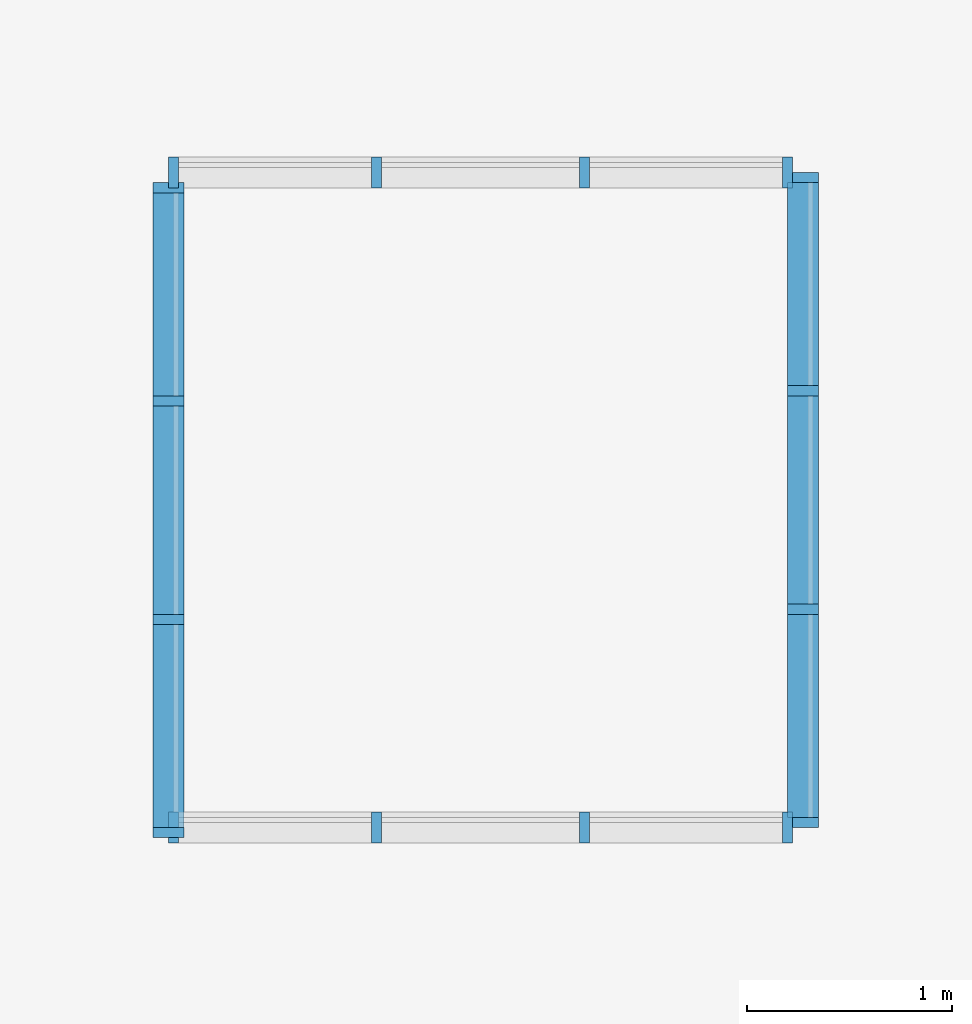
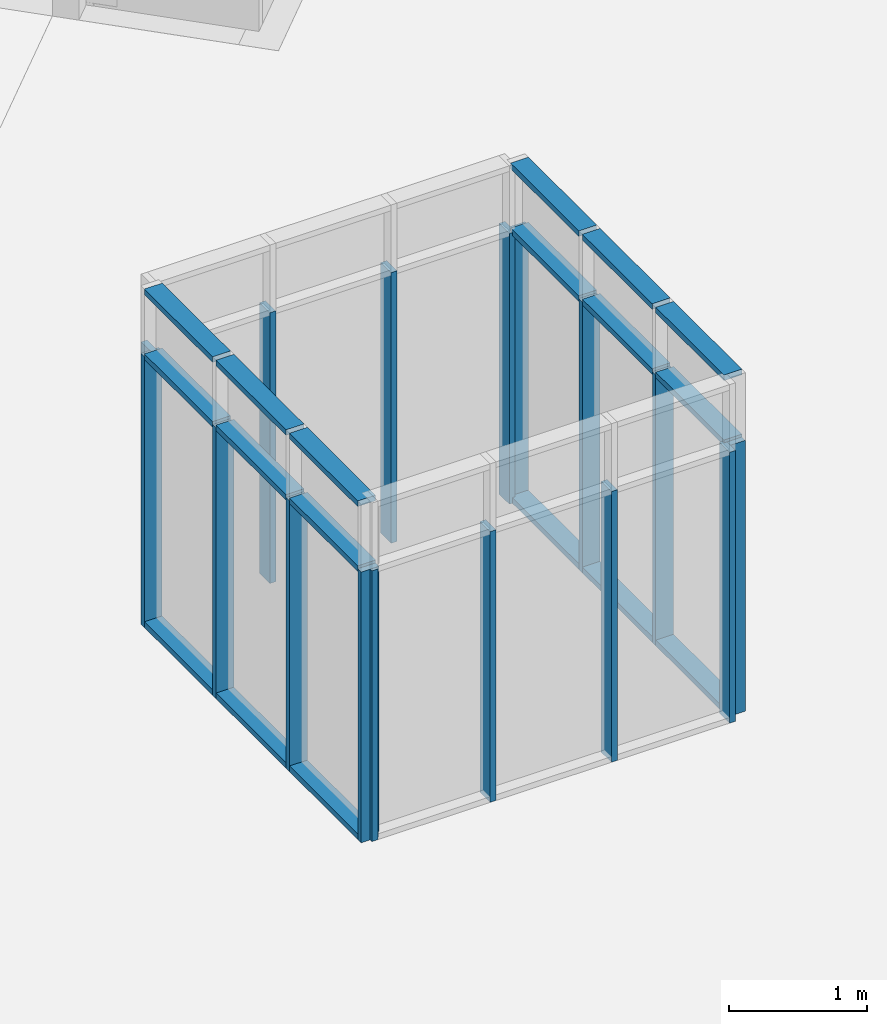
# One storey, part 6 of 64: 34 members, 4 elements without a shape of their own.
"""IFC2X3 building model written with IfcOpenShell, lengths in millimetres."""

from ifc_helpers import new_model, entity, si_unit, converted_unit, derived_unit, direction, frame, frame_2d, origin, origin_2d_with_axis, place, context, subcontext, project, spatial, rectangle, extrude, material, type_object, element, aggregate, save


model = new_model("IFC2X3")

# Units and contexts
model_context = context("Model", 3, precision=0.01, world=origin(), true_north=direction((4.05803320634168e-15, -1.0)))
body_context = subcontext(model_context, "Body", "Model", "MODEL_VIEW")
ifc_project = project(units=[si_unit("LENGTHUNIT", "METRE", prefix="MILLI"), si_unit("AREAUNIT", "SQUARE_METRE"), si_unit("VOLUMEUNIT", "CUBIC_METRE"), converted_unit("PLANEANGLEUNIT", "DEGREE", entity("IfcRatioMeasure", 0.0174532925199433), si_unit("PLANEANGLEUNIT", "RADIAN"), dimensions=[0, 0, 0, 0, 0, 0, 0]), si_unit("MASSUNIT", "GRAM", prefix="KILO"), derived_unit("MASSDENSITYUNIT", [(si_unit("MASSUNIT", "GRAM", prefix="KILO"), 1), (si_unit("LENGTHUNIT", "METRE"), -3)]), si_unit("TIMEUNIT", "SECOND"), si_unit("FREQUENCYUNIT", "HERTZ"), si_unit("THERMODYNAMICTEMPERATUREUNIT", "DEGREE_CELSIUS"), derived_unit("THERMALTRANSMITTANCEUNIT", [(si_unit("MASSUNIT", "GRAM", prefix="KILO"), 1), (si_unit("THERMODYNAMICTEMPERATUREUNIT", "KELVIN"), -1), (si_unit("TIMEUNIT", "SECOND"), -3)]), derived_unit("VOLUMETRICFLOWRATEUNIT", [(si_unit("LENGTHUNIT", "METRE"), 3), (si_unit("TIMEUNIT", "SECOND"), -1)]), si_unit("ELECTRICCURRENTUNIT", "AMPERE"), si_unit("ELECTRICVOLTAGEUNIT", "VOLT"), si_unit("POWERUNIT", "WATT"), si_unit("FORCEUNIT", "NEWTON", prefix="KILO"), si_unit("ILLUMINANCEUNIT", "LUX"), si_unit("LUMINOUSFLUXUNIT", "LUMEN"), si_unit("LUMINOUSINTENSITYUNIT", "CANDELA"), derived_unit("USERDEFINED", [(si_unit("MASSUNIT", "GRAM", prefix="KILO"), -1), (si_unit("LENGTHUNIT", "METRE"), -2), (si_unit("TIMEUNIT", "SECOND"), 3), (si_unit("LUMINOUSFLUXUNIT", "LUMEN"), 1)]), derived_unit("LINEARVELOCITYUNIT", [(si_unit("LENGTHUNIT", "METRE"), 1), (si_unit("TIMEUNIT", "SECOND"), -1)]), si_unit("PRESSUREUNIT", "PASCAL"), derived_unit("USERDEFINED", [(si_unit("LENGTHUNIT", "METRE"), -2), (si_unit("MASSUNIT", "GRAM", prefix="KILO"), 1), (si_unit("TIMEUNIT", "SECOND"), -2)])], contexts=[model_context])

# Site, building, storey
site_placement = place(None, frame((927466.849349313, 583801.882853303, 0.0), z_axis=(0.0, 0.0, 1.0), x_axis=(-1.0, 0.0, 0.0)))
site = spatial("IfcSite", under=ifc_project, at=site_placement, Name="Surface", CompositionType="ELEMENT")
building_placement = place(site_placement, origin())
building = spatial("IfcBuilding", under=site, at=building_placement, CompositionType="ELEMENT")
storey_placement = place(building_placement, frame((0.0, 0.0, 44170.0)))
storey = spatial("IfcBuildingStorey", under=building, at=storey_placement, Name="Ground FFL", CompositionType="ELEMENT", Elevation=44170.0)

# Curtain wall, members
curtain_wall_type = type_object("IfcCurtainWallType", Name="Curtain Wall:Storefront", PredefinedType="NOTDEFINED")
curtain_wall_1_placement = place(storey_placement, frame((0.0, 0.0, -44170.0)))
curtain_wall_1 = element("IfcCurtainWall", 1, at=curtain_wall_1_placement, inside=storey, type_object=curtain_wall_type, Name="Curtain Wall:Storefront", ObjectType="Curtain Wall:Storefront")
ifc_material = material(Name="Aluminium")
member_1_placement = place(curtain_wall_1_placement, frame((0.0, 0.0, 44170.0)))
member_1 = element("IfcMember", 2, at=member_1_placement, material=ifc_material, Name="Curtain Wall:Storefront:8486", ObjectType="Curtain Wall:Storefront:8486", context=body_context, shape_type="SweptSolid", body=[
    extrude(rectangle(XDim=49.9999999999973, YDim=150.000000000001, at=frame_2d((4.33253433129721e-12, 0.0), x_axis=(1.0, 0.0))), frame((-91700.5917798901, -24471.7403210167, 2976.14574404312), z_axis=(0.0, 1.0, 0.0), x_axis=(0.0, 0.0, -1.0)), (0.0, 0.0, 1.0), 991.666666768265),
])
member_2_placement = place(curtain_wall_1_placement, frame((0.0, 0.0, 44170.0)))
member_2 = element("IfcMember", 3, at=member_2_placement, material=ifc_material, Name="Curtain Wall:Storefront:8486", ObjectType="Curtain Wall:Storefront:8486", context=body_context, shape_type="SweptSolid", body=[
    extrude(rectangle(XDim=49.9999999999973, YDim=150.000000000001, at=frame_2d((4.33253433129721e-12, 0.0), x_axis=(1.0, 0.0))), frame((-91700.5917798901, -21371.7403210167, 25.0), z_axis=(0.0, -1.0, 0.0), x_axis=(0.0, 0.0, -1.0)), (0.0, 0.0, 1.0), 991.666666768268),
])
member_3_placement = place(curtain_wall_1_placement, frame((0.0, 0.0, 44170.0)))
member_3 = element("IfcMember", 4, at=member_3_placement, material=ifc_material, Name="Curtain Wall:Storefront:8486", ObjectType="Curtain Wall:Storefront:8486", context=body_context, shape_type="SweptSolid", body=[
    extrude(rectangle(XDim=150.000000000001, YDim=50.0000000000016, at=frame_2d((0.0, 2.16715534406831e-12), x_axis=(1.0, 0.0))), frame((-91700.5917798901, -24496.7403210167, 0.0), z_axis=(0.0, 0.0, 1.0), x_axis=(-1.0, 0.0, 0.0)), (0.0, 0.0, 1.0), 2400.0),
])
member_4_placement = place(curtain_wall_1_placement, frame((0.0, 0.0, 44170.0)))
member_4 = element("IfcMember", 5, at=member_4_placement, material=ifc_material, Name="Curtain Wall:Storefront:8486", ObjectType="Curtain Wall:Storefront:8486", context=body_context, shape_type="SweptSolid", body=[
    extrude(rectangle(XDim=49.9999999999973, YDim=150.000000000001, at=frame_2d((4.33253433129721e-12, 0.0), x_axis=(1.0, 0.0))), frame((-91700.5917798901, -22363.406987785, 2976.14574404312), z_axis=(0.0, 1.0, 0.0), x_axis=(0.0, 0.0, -1.0)), (0.0, 0.0, 1.0), 991.666666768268),
])
member_5_placement = place(curtain_wall_1_placement, frame((0.0, 0.0, 44170.0)))
member_5 = element("IfcMember", 6, at=member_5_placement, material=ifc_material, Name="Curtain Wall:Storefront:8486", ObjectType="Curtain Wall:Storefront:8486", context=body_context, shape_type="SweptSolid", body=[
    extrude(rectangle(XDim=49.9999999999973, YDim=150.000000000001, at=frame_2d((4.33253433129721e-12, 0.0), x_axis=(1.0, 0.0))), frame((-91700.5917798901, -23430.0736542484, 2976.14574404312), z_axis=(0.0, 1.0, 0.0), x_axis=(0.0, 0.0, -1.0)), (0.0, 0.0, 1.0), 1016.66666646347),
])
member_6_placement = place(curtain_wall_1_placement, frame((0.0, 0.0, 44170.0)))
member_6 = element("IfcMember", 7, at=member_6_placement, material=ifc_material, Name="Curtain Wall:Storefront:8486", ObjectType="Curtain Wall:Storefront:8486", context=body_context, shape_type="SweptSolid", body=[
    extrude(rectangle(XDim=49.9999999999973, YDim=150.000000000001, at=frame_2d((4.33253433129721e-12, 0.0), x_axis=(1.0, 0.0))), frame((-91700.5917798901, -22413.4069877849, 25.0), z_axis=(0.0, -1.0, 0.0), x_axis=(0.0, 0.0, -1.0)), (0.0, 0.0, 1.0), 1016.66666646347),
])
member_7_placement = place(curtain_wall_1_placement, frame((0.0, 0.0, 44170.0)))
member_7 = element("IfcMember", 8, at=member_7_placement, material=ifc_material, Name="Curtain Wall:Storefront:8486", ObjectType="Curtain Wall:Storefront:8486", context=body_context, shape_type="SweptSolid", body=[
    extrude(rectangle(XDim=49.9999999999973, YDim=150.000000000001, at=frame_2d((4.33253433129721e-12, 0.0), x_axis=(1.0, 0.0))), frame((-91700.5917798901, -23480.0736542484, 25.0), z_axis=(0.0, -1.0, 0.0), x_axis=(0.0, 0.0, -1.0)), (0.0, 0.0, 1.0), 991.666666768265),
])
member_8_placement = place(curtain_wall_1_placement, frame((0.0, 0.0, 44170.0)))
member_8 = element("IfcMember", 9, at=member_8_placement, material=ifc_material, Name="Curtain Wall:Storefront:8486", ObjectType="Curtain Wall:Storefront:8486", context=body_context, shape_type="SweptSolid", body=[
    extrude(rectangle(XDim=150.000000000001, YDim=50.0000000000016, at=frame_2d((0.0, 2.16715534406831e-12), x_axis=(1.0, 0.0))), frame((-91700.5917798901, -21346.7403210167, 2400.0), z_axis=(0.0, 0.0, -1.0), x_axis=(-1.0, 0.0, 0.0)), (0.0, 0.0, 1.0), 2400.0),
])
member_9_placement = place(curtain_wall_1_placement, frame((0.0, 0.0, 44170.0)))
member_9 = element("IfcMember", 10, at=member_9_placement, material=ifc_material, Name="Curtain Wall:Storefront:8486", ObjectType="Curtain Wall:Storefront:8486", context=body_context, shape_type="SweptSolid", body=[
    extrude(rectangle(XDim=50.000000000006, YDim=150.000000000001, at=origin_2d_with_axis()), frame((-91700.5917798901, -22363.406987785, 2400.0), z_axis=(0.0, 1.0, 0.0), x_axis=(0.0, 0.0, -1.0)), (0.0, 0.0, 1.0), 991.666666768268),
])
member_10_placement = place(curtain_wall_1_placement, frame((0.0, 0.0, 44170.0)))
member_10 = element("IfcMember", 11, at=member_10_placement, material=ifc_material, Name="Curtain Wall:Storefront:8486", ObjectType="Curtain Wall:Storefront:8486", context=body_context, shape_type="SweptSolid", body=[
    extrude(rectangle(XDim=50.000000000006, YDim=150.000000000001, at=origin_2d_with_axis()), frame((-91700.5917798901, -23430.0736542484, 2400.0), z_axis=(0.0, 1.0, 0.0), x_axis=(0.0, 0.0, -1.0)), (0.0, 0.0, 1.0), 1016.66666646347),
])
member_11_placement = place(curtain_wall_1_placement, frame((0.0, 0.0, 44170.0)))
member_11 = element("IfcMember", 12, at=member_11_placement, material=ifc_material, Name="Curtain Wall:Storefront:8486", ObjectType="Curtain Wall:Storefront:8486", context=body_context, shape_type="SweptSolid", body=[
    extrude(rectangle(XDim=50.000000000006, YDim=150.000000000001, at=origin_2d_with_axis()), frame((-91700.5917798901, -24471.7403210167, 2400.0), z_axis=(0.0, 1.0, 0.0), x_axis=(0.0, 0.0, -1.0)), (0.0, 0.0, 1.0), 991.666666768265),
])
member_12_placement = place(curtain_wall_1_placement, frame((0.0, 0.0, 44170.0)))
member_12 = element("IfcMember", 13, at=member_12_placement, material=ifc_material, Name="Curtain Wall:Storefront:8486", ObjectType="Curtain Wall:Storefront:8486", context=body_context, shape_type="SweptSolid", body=[
    extrude(rectangle(XDim=150.000000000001, YDim=49.9999999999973, at=origin_2d_with_axis()), frame((-91700.5917798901, -22388.4069877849, 0.0), z_axis=(0.0, 0.0, 1.0), x_axis=(-1.0, 0.0, 0.0)), (0.0, 0.0, 1.0), 2400.0),
])
member_13_placement = place(curtain_wall_1_placement, frame((0.0, 0.0, 44170.0)))
member_13 = element("IfcMember", 14, at=member_13_placement, material=ifc_material, Name="Curtain Wall:Storefront:8486", ObjectType="Curtain Wall:Storefront:8486", context=body_context, shape_type="SweptSolid", body=[
    extrude(rectangle(XDim=150.000000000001, YDim=49.9999999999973, at=origin_2d_with_axis()), frame((-91700.5917798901, -23455.0736542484, 0.0), z_axis=(0.0, 0.0, 1.0), x_axis=(-1.0, 0.0, 0.0)), (0.0, 0.0, 1.0), 2400.0),
])
aggregate(curtain_wall_1, [member_1, member_2, member_3, member_4, member_5, member_6, member_7, member_8, member_9, member_10, member_11, member_12, member_13])

curtain_wall_2_placement = place(storey_placement, frame((0.0, 0.0, -44170.0)))
curtain_wall_2 = element("IfcCurtainWall", 15, at=curtain_wall_2_placement, inside=storey, type_object=curtain_wall_type, Name="Curtain Wall:Storefront", ObjectType="Curtain Wall:Storefront")
member_14_placement = place(curtain_wall_2_placement, frame((0.0, 0.0, 44170.0)))
member_14 = element("IfcMember", 16, at=member_14_placement, material=ifc_material, Name="Curtain Wall:Storefront:8486", ObjectType="Curtain Wall:Storefront:8486", context=body_context, shape_type="SweptSolid", body=[
    extrude(rectangle(XDim=50.000000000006, YDim=150.000000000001, at=frame_2d((-8.66329230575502e-12, 0.0), x_axis=(1.0, 0.0))), frame((-91625.5917798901, -21321.7403210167, 0.0), z_axis=(0.0, 0.0, 1.0), x_axis=(-1.0, 0.0, 0.0)), (0.0, 0.0, 1.0), 2400.0),
])
member_15_placement = place(curtain_wall_2_placement, frame((0.0, 0.0, 44170.0)))
member_15 = element("IfcMember", 17, at=member_15_placement, material=ifc_material, Name="Curtain Wall:Storefront:8486", ObjectType="Curtain Wall:Storefront:8486", context=body_context, shape_type="SweptSolid", body=[
    extrude(rectangle(XDim=50.000000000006, YDim=150.000000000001, at=frame_2d((-8.66329230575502e-12, 0.0), x_axis=(1.0, 0.0))), frame((-88625.5917798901, -21321.7403210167, 2400.0), z_axis=(0.0, 0.0, -1.0), x_axis=(-1.0, 0.0, 0.0)), (0.0, 0.0, 1.0), 2400.0),
])
member_16_placement = place(curtain_wall_2_placement, frame((0.0, 0.0, 44170.0)))
member_16 = element("IfcMember", 18, at=member_16_placement, material=ifc_material, Name="Curtain Wall:Storefront:8486", ObjectType="Curtain Wall:Storefront:8486", context=body_context, shape_type="SweptSolid", body=[
    extrude(rectangle(XDim=49.9999999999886, YDim=150.000000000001, at=origin_2d_with_axis()), frame((-89617.2584466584, -21321.7403210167, 0.0), z_axis=(0.0, 0.0, 1.0), x_axis=(-1.0, 0.0, 0.0)), (0.0, 0.0, 1.0), 2400.0),
])
member_17_placement = place(curtain_wall_2_placement, frame((0.0, 0.0, 44170.0)))
member_17 = element("IfcMember", 19, at=member_17_placement, material=ifc_material, Name="Curtain Wall:Storefront:8486", ObjectType="Curtain Wall:Storefront:8486", context=body_context, shape_type="SweptSolid", body=[
    extrude(rectangle(XDim=49.9999999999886, YDim=150.000000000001, at=frame_2d((1.732658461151e-11, 0.0), x_axis=(1.0, 0.0))), frame((-90633.9251131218, -21321.7403210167, 0.0), z_axis=(0.0, 0.0, 1.0), x_axis=(-1.0, 0.0, 0.0)), (0.0, 0.0, 1.0), 2400.0),
])
aggregate(curtain_wall_2, [member_14, member_15, member_16, member_17])

curtain_wall_3_placement = place(storey_placement, frame((0.0, 0.0, -44170.0)))
curtain_wall_3 = element("IfcCurtainWall", 20, at=curtain_wall_3_placement, inside=storey, type_object=curtain_wall_type, Name="Curtain Wall:Storefront", ObjectType="Curtain Wall:Storefront")
member_18_placement = place(curtain_wall_3_placement, frame((0.0, 0.0, 44170.0)))
member_18 = element("IfcMember", 21, at=member_18_placement, material=ifc_material, Name="Curtain Wall:Storefront:8486", ObjectType="Curtain Wall:Storefront:8486", context=body_context, shape_type="SweptSolid", body=[
    extrude(rectangle(XDim=50.000000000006, YDim=150.000000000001, at=frame_2d((8.66329230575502e-12, 0.0), x_axis=(1.0, 0.0))), frame((-91625.5917798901, -24521.7403210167, 0.0), z_axis=(0.0, 0.0, 1.0), x_axis=(-1.0, 0.0, 0.0)), (0.0, 0.0, 1.0), 2400.0),
])
member_19_placement = place(curtain_wall_3_placement, frame((0.0, 0.0, 44170.0)))
member_19 = element("IfcMember", 22, at=member_19_placement, material=ifc_material, Name="Curtain Wall:Storefront:8486", ObjectType="Curtain Wall:Storefront:8486", context=body_context, shape_type="SweptSolid", body=[
    extrude(rectangle(XDim=50.000000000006, YDim=150.000000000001, at=frame_2d((8.66329230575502e-12, 0.0), x_axis=(1.0, 0.0))), frame((-88625.5917798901, -24521.7403210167, 2400.0), z_axis=(0.0, 0.0, -1.0), x_axis=(-1.0, 0.0, 0.0)), (0.0, 0.0, 1.0), 2400.0),
])
member_20_placement = place(curtain_wall_3_placement, frame((0.0, 0.0, 44170.0)))
member_20 = element("IfcMember", 23, at=member_20_placement, material=ifc_material, Name="Curtain Wall:Storefront:8486", ObjectType="Curtain Wall:Storefront:8486", context=body_context, shape_type="SweptSolid", body=[
    extrude(rectangle(XDim=49.9999999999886, YDim=150.000000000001, at=origin_2d_with_axis()), frame((-89617.2584466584, -24521.7403210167, 0.0), z_axis=(0.0, 0.0, 1.0), x_axis=(-1.0, 0.0, 0.0)), (0.0, 0.0, 1.0), 2400.0),
])
member_21_placement = place(curtain_wall_3_placement, frame((0.0, 0.0, 44170.0)))
member_21 = element("IfcMember", 24, at=member_21_placement, material=ifc_material, Name="Curtain Wall:Storefront:8486", ObjectType="Curtain Wall:Storefront:8486", context=body_context, shape_type="SweptSolid", body=[
    extrude(rectangle(XDim=49.9999999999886, YDim=150.000000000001, at=frame_2d((1.732658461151e-11, 0.0), x_axis=(1.0, 0.0))), frame((-90633.9251131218, -24521.7403210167, 0.0), z_axis=(0.0, 0.0, 1.0), x_axis=(-1.0, 0.0, 0.0)), (0.0, 0.0, 1.0), 2400.0),
])
aggregate(curtain_wall_3, [member_18, member_19, member_20, member_21])

curtain_wall_4_placement = place(storey_placement, frame((0.0, 0.0, -44170.0)))
curtain_wall_4 = element("IfcCurtainWall", 25, at=curtain_wall_4_placement, inside=storey, type_object=curtain_wall_type, Name="Curtain Wall:Storefront", ObjectType="Curtain Wall:Storefront")
member_22_placement = place(curtain_wall_4_placement, frame((0.0, 0.0, 44170.0)))
member_22 = element("IfcMember", 26, at=member_22_placement, material=ifc_material, Name="Curtain Wall:Storefront:8486", ObjectType="Curtain Wall:Storefront:8486", context=body_context, shape_type="SweptSolid", body=[
    extrude(rectangle(XDim=49.9999999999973, YDim=150.000000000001, at=frame_2d((4.33253433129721e-12, 0.0), x_axis=(1.0, 0.0))), frame((-88600.5917798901, -24421.7403210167, 2975.0), z_axis=(0.0, 1.0, 0.0), x_axis=(0.0, 0.0, -1.0)), (0.0, 0.0, 1.0), 991.666666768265),
])
member_23_placement = place(curtain_wall_4_placement, frame((0.0, 0.0, 44170.0)))
member_23 = element("IfcMember", 27, at=member_23_placement, material=ifc_material, Name="Curtain Wall:Storefront:8486", ObjectType="Curtain Wall:Storefront:8486", context=body_context, shape_type="SweptSolid", body=[
    extrude(rectangle(XDim=49.9999999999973, YDim=150.000000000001, at=frame_2d((4.33253433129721e-12, 0.0), x_axis=(1.0, 0.0))), frame((-88600.5917798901, -21321.7403210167, 25.0), z_axis=(0.0, -1.0, 0.0), x_axis=(0.0, 0.0, -1.0)), (0.0, 0.0, 1.0), 991.666666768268),
])
member_24_placement = place(curtain_wall_4_placement, frame((0.0, 0.0, 44170.0)))
member_24 = element("IfcMember", 28, at=member_24_placement, material=ifc_material, Name="Curtain Wall:Storefront:8486", ObjectType="Curtain Wall:Storefront:8486", context=body_context, shape_type="SweptSolid", body=[
    extrude(rectangle(XDim=150.000000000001, YDim=50.0000000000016, at=frame_2d((0.0, -2.16715534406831e-12), x_axis=(1.0, 0.0))), frame((-88600.5917798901, -24446.7403210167, 0.0), z_axis=(0.0, 0.0, 1.0), x_axis=(-1.0, 0.0, 0.0)), (0.0, 0.0, 1.0), 2400.0),
])
member_25_placement = place(curtain_wall_4_placement, frame((0.0, 0.0, 44170.0)))
member_25 = element("IfcMember", 29, at=member_25_placement, material=ifc_material, Name="Curtain Wall:Storefront:8486", ObjectType="Curtain Wall:Storefront:8486", context=body_context, shape_type="SweptSolid", body=[
    extrude(rectangle(XDim=49.9999999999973, YDim=150.000000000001, at=frame_2d((4.33253433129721e-12, 0.0), x_axis=(1.0, 0.0))), frame((-88600.5917798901, -22313.406987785, 2975.0), z_axis=(0.0, 1.0, 0.0), x_axis=(0.0, 0.0, -1.0)), (0.0, 0.0, 1.0), 991.666666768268),
])
member_26_placement = place(curtain_wall_4_placement, frame((0.0, 0.0, 44170.0)))
member_26 = element("IfcMember", 30, at=member_26_placement, material=ifc_material, Name="Curtain Wall:Storefront:8486", ObjectType="Curtain Wall:Storefront:8486", context=body_context, shape_type="SweptSolid", body=[
    extrude(rectangle(XDim=49.9999999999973, YDim=150.000000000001, at=frame_2d((4.33253433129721e-12, 0.0), x_axis=(1.0, 0.0))), frame((-88600.5917798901, -23380.0736542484, 2975.0), z_axis=(0.0, 1.0, 0.0), x_axis=(0.0, 0.0, -1.0)), (0.0, 0.0, 1.0), 1016.66666646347),
])
member_27_placement = place(curtain_wall_4_placement, frame((0.0, 0.0, 44170.0)))
member_27 = element("IfcMember", 31, at=member_27_placement, material=ifc_material, Name="Curtain Wall:Storefront:8486", ObjectType="Curtain Wall:Storefront:8486", context=body_context, shape_type="SweptSolid", body=[
    extrude(rectangle(XDim=49.9999999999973, YDim=150.000000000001, at=frame_2d((4.33253433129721e-12, 0.0), x_axis=(1.0, 0.0))), frame((-88600.5917798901, -22363.406987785, 25.0), z_axis=(0.0, -1.0, 0.0), x_axis=(0.0, 0.0, -1.0)), (0.0, 0.0, 1.0), 1016.66666646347),
])
member_28_placement = place(curtain_wall_4_placement, frame((0.0, 0.0, 44170.0)))
member_28 = element("IfcMember", 32, at=member_28_placement, material=ifc_material, Name="Curtain Wall:Storefront:8486", ObjectType="Curtain Wall:Storefront:8486", context=body_context, shape_type="SweptSolid", body=[
    extrude(rectangle(XDim=49.9999999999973, YDim=150.000000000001, at=frame_2d((4.33253433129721e-12, 0.0), x_axis=(1.0, 0.0))), frame((-88600.5917798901, -23430.0736542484, 25.0), z_axis=(0.0, -1.0, 0.0), x_axis=(0.0, 0.0, -1.0)), (0.0, 0.0, 1.0), 991.666666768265),
])
member_29_placement = place(curtain_wall_4_placement, frame((0.0, 0.0, 44170.0)))
member_29 = element("IfcMember", 33, at=member_29_placement, material=ifc_material, Name="Curtain Wall:Storefront:8486", ObjectType="Curtain Wall:Storefront:8486", context=body_context, shape_type="SweptSolid", body=[
    extrude(rectangle(XDim=150.000000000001, YDim=50.0000000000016, at=frame_2d((0.0, 2.16715534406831e-12), x_axis=(1.0, 0.0))), frame((-88600.5917798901, -21296.7403210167, 2400.0), z_axis=(0.0, 0.0, -1.0), x_axis=(-1.0, 0.0, 0.0)), (0.0, 0.0, 1.0), 2400.0),
])
member_30_placement = place(curtain_wall_4_placement, frame((0.0, 0.0, 44170.0)))
member_30 = element("IfcMember", 34, at=member_30_placement, material=ifc_material, Name="Curtain Wall:Storefront:8486", ObjectType="Curtain Wall:Storefront:8486", context=body_context, shape_type="SweptSolid", body=[
    extrude(rectangle(XDim=50.000000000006, YDim=150.000000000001, at=origin_2d_with_axis()), frame((-88600.5917798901, -22313.406987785, 2400.0), z_axis=(0.0, 1.0, 0.0), x_axis=(0.0, 0.0, -1.0)), (0.0, 0.0, 1.0), 991.666666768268),
])
member_31_placement = place(curtain_wall_4_placement, frame((0.0, 0.0, 44170.0)))
member_31 = element("IfcMember", 35, at=member_31_placement, material=ifc_material, Name="Curtain Wall:Storefront:8486", ObjectType="Curtain Wall:Storefront:8486", context=body_context, shape_type="SweptSolid", body=[
    extrude(rectangle(XDim=50.000000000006, YDim=150.000000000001, at=origin_2d_with_axis()), frame((-88600.5917798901, -23380.0736542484, 2400.0), z_axis=(0.0, 1.0, 0.0), x_axis=(0.0, 0.0, -1.0)), (0.0, 0.0, 1.0), 1016.66666646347),
])
member_32_placement = place(curtain_wall_4_placement, frame((0.0, 0.0, 44170.0)))
member_32 = element("IfcMember", 36, at=member_32_placement, material=ifc_material, Name="Curtain Wall:Storefront:8486", ObjectType="Curtain Wall:Storefront:8486", context=body_context, shape_type="SweptSolid", body=[
    extrude(rectangle(XDim=50.000000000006, YDim=150.000000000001, at=origin_2d_with_axis()), frame((-88600.5917798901, -24421.7403210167, 2400.0), z_axis=(0.0, 1.0, 0.0), x_axis=(0.0, 0.0, -1.0)), (0.0, 0.0, 1.0), 991.666666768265),
])
member_33_placement = place(curtain_wall_4_placement, frame((0.0, 0.0, 44170.0)))
member_33 = element("IfcMember", 37, at=member_33_placement, material=ifc_material, Name="Curtain Wall:Storefront:8486", ObjectType="Curtain Wall:Storefront:8486", context=body_context, shape_type="SweptSolid", body=[
    extrude(rectangle(XDim=150.000000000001, YDim=49.9999999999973, at=origin_2d_with_axis()), frame((-88600.5917798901, -22338.406987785, 0.0), z_axis=(0.0, 0.0, 1.0), x_axis=(-1.0, 0.0, 0.0)), (0.0, 0.0, 1.0), 2400.0),
])
member_34_placement = place(curtain_wall_4_placement, frame((0.0, 0.0, 44170.0)))
member_34 = element("IfcMember", 38, at=member_34_placement, material=ifc_material, Name="Curtain Wall:Storefront:8486", ObjectType="Curtain Wall:Storefront:8486", context=body_context, shape_type="SweptSolid", body=[
    extrude(rectangle(XDim=150.000000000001, YDim=49.9999999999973, at=origin_2d_with_axis()), frame((-88600.5917798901, -23405.0736542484, 0.0), z_axis=(0.0, 0.0, 1.0), x_axis=(-1.0, 0.0, 0.0)), (0.0, 0.0, 1.0), 2400.0),
])
aggregate(curtain_wall_4, [member_22, member_23, member_24, member_25, member_26, member_27, member_28, member_29, member_30, member_31, member_32, member_33, member_34])

save(model, "model.ifc")
